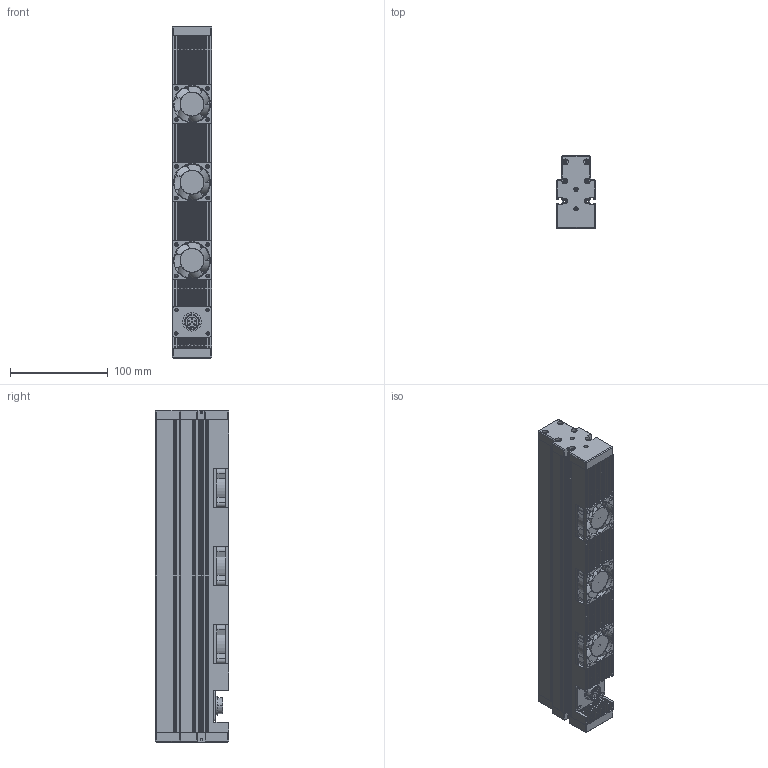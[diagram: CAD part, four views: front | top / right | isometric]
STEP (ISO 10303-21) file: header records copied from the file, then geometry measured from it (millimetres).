
FILE_DESCRIPTION (( 'STEP AP203' ), '1' );
FILE_NAME ('PPX-LS340S-W.STEP', '2022-09-07T03:41:31', ( '' ), ( '' ), 'SwSTEP 2.0', 'SolidWorks 2016', '' );
FILE_SCHEMA (( 'CONFIG_CONTROL_DESIGN' ));
Products named in the file (1): PPX-LS340S-W
Bounding box: 40 x 75 x 340 mm (x, y, z)
Surface area: 346126.3 mm2 (no closed solid volume)
Topology: 0 solids, 17 shells, 1397 faces, 3899 edges, 2547 vertices
Faces by surface type: plane 649, cylinder 583, bspline 111, cone 50, torus 4
Entity records: 52393 total; most frequent: CARTESIAN_POINT 16551, ORIENTED_EDGE 7708, DIRECTION 7252, EDGE_CURVE 3863, VERTEX_POINT 2547, AXIS2_PLACEMENT_3D 2512, VECTOR 2228, LINE 2228
